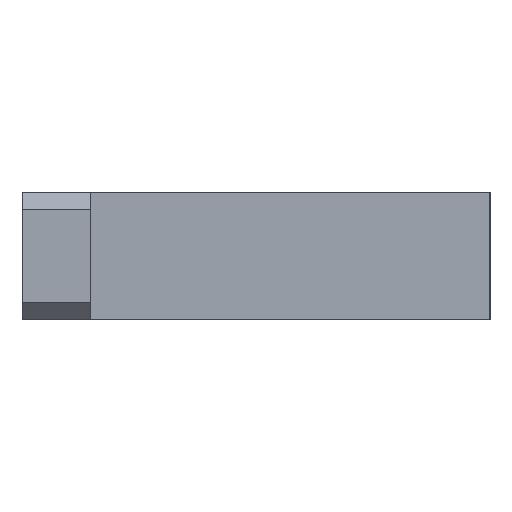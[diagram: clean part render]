
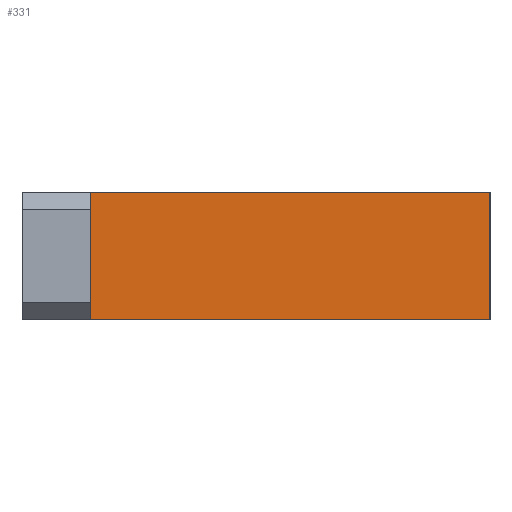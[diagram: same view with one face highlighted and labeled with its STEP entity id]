
A CAD part, left-side view. The second image highlights one B-rep face of the part: STEP entity #331.
In plain terms, the highlighted planar face has unit normal (-1, 0, 0).
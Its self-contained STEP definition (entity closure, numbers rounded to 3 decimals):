
#22 = FACE_OUTER_BOUND ( 'NONE', #303, .T. ) ;
#38 = ORIENTED_EDGE ( 'NONE', *, *, #174, .T. ) ;
#42 = EDGE_CURVE ( 'NONE', #298, #768, #55, .T. ) ;
#51 = CARTESIAN_POINT ( 'NONE',  ( 0., 0., 7.5 ) ) ;
#55 = LINE ( 'NONE', #255, #751 ) ;
#63 = ORIENTED_EDGE ( 'NONE', *, *, #566, .T. ) ;
#77 = LINE ( 'NONE', #792, #203 ) ;
#145 = DIRECTION ( 'NONE',  ( 0., -1., 0. ) ) ;
#151 = DIRECTION ( 'NONE',  ( 0., 1., 0. ) ) ;
#174 = EDGE_CURVE ( 'NONE', #298, #693, #767, .T. ) ;
#196 = CARTESIAN_POINT ( 'NONE',  ( 0., 0., 7.5 ) ) ;
#203 = VECTOR ( 'NONE', #722, 1000. ) ;
#215 = CARTESIAN_POINT ( 'NONE',  ( 0., 47., 7.5 ) ) ;
#247 = DIRECTION ( 'NONE',  ( 0., 0., -1. ) ) ;
#255 = CARTESIAN_POINT ( 'NONE',  ( 0., 0., 7.5 ) ) ;
#260 = DIRECTION ( 'NONE',  ( 0., 0., -1. ) ) ;
#298 = VERTEX_POINT ( 'NONE', #490 ) ;
#303 = EDGE_LOOP ( 'NONE', ( #63, #464, #835, #38 ) ) ;
#331 = ADVANCED_FACE ( 'NONE', ( #22 ), #487, .F. ) ;
#337 = AXIS2_PLACEMENT_3D ( 'NONE', #196, #435, #151 ) ;
#435 = DIRECTION ( 'NONE',  ( 1., 0., 0. ) ) ;
#439 = CARTESIAN_POINT ( 'NONE',  ( 0., 0., 7.5 ) ) ;
#460 = VERTEX_POINT ( 'NONE', #811 ) ;
#464 = ORIENTED_EDGE ( 'NONE', *, *, #702, .F. ) ;
#487 = PLANE ( 'NONE',  #337 ) ;
#490 = CARTESIAN_POINT ( 'NONE',  ( 0., 47., 7.5 ) ) ;
#527 = CARTESIAN_POINT ( 'NONE',  ( 0., 47., -7.5 ) ) ;
#529 = VECTOR ( 'NONE', #247, 1000. ) ;
#566 = EDGE_CURVE ( 'NONE', #693, #460, #77, .T. ) ;
#616 = VECTOR ( 'NONE', #260, 1000. ) ;
#693 = VERTEX_POINT ( 'NONE', #527 ) ;
#702 = EDGE_CURVE ( 'NONE', #768, #460, #821, .T. ) ;
#722 = DIRECTION ( 'NONE',  ( 0., -1., 0. ) ) ;
#751 = VECTOR ( 'NONE', #145, 1000. ) ;
#767 = LINE ( 'NONE', #215, #616 ) ;
#768 = VERTEX_POINT ( 'NONE', #439 ) ;
#792 = CARTESIAN_POINT ( 'NONE',  ( 0., 0., -7.5 ) ) ;
#811 = CARTESIAN_POINT ( 'NONE',  ( 0., 0., -7.5 ) ) ;
#821 = LINE ( 'NONE', #51, #529 ) ;
#835 = ORIENTED_EDGE ( 'NONE', *, *, #42, .F. ) ;
